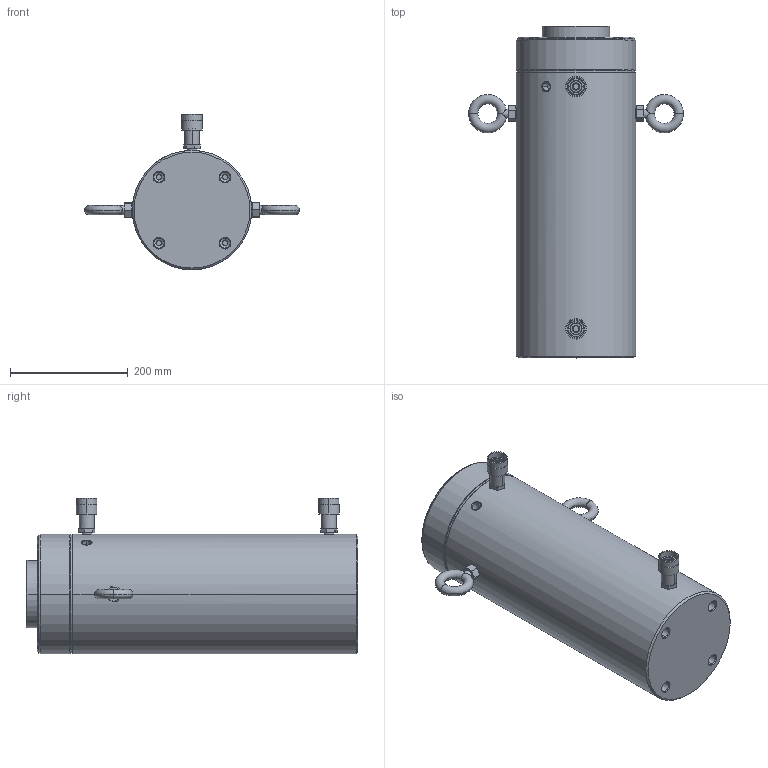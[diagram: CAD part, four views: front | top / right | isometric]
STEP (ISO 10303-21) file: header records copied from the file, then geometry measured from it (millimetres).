
FILE_DESCRIPTION((''),'2;1');
FILE_NAME('RR15013','2020-02-24T09:01:54',('mike.ward'),(''),'CREO PARAMETRIC BY PTC INC, 2018400','CREO PARAMETRIC BY PTC INC, 2018400','');
FILE_SCHEMA(('CONFIG_CONTROL_DESIGN'));
Length unit declared in the file: millimetre
Products named in the file (1): RR15013
Bounding box: 365.25 x 564 x 264.57 mm (x, y, z)
Volume: 17853777.8 mm3; surface area: 584885.2 mm2
Topology: 1 solids, 3 shells, 422 faces, 932 edges, 560 vertices
Faces by surface type: cylinder 145, plane 119, cone 116, torus 42
Entity records: 13568 total; most frequent: CARTESIAN_POINT 3948, DIRECTION 2204, ORIENTED_EDGE 1856, AXIS2_PLACEMENT_3D 930, EDGE_CURVE 928, VERTEX_POINT 560, CIRCLE 508, EDGE_LOOP 488
